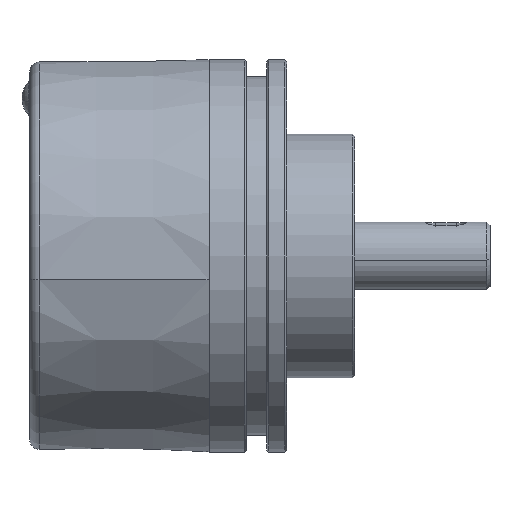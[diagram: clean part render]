
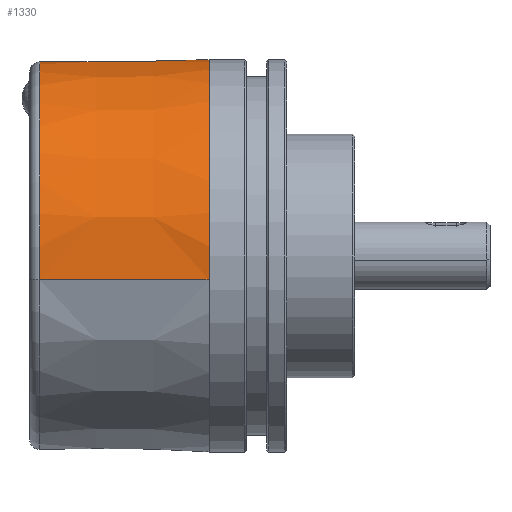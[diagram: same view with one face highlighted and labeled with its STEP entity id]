
A CAD part, front view. The second image highlights one B-rep face of the part: STEP entity #1330.
In plain terms, the highlighted conical face has half-angle 0.75 degrees and reference radius 29 mm.
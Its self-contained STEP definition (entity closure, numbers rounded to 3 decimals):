
#1330 = ADVANCED_FACE ( 'NONE', ( #3565 ), #3521, .T. ) ;
#1331 = EDGE_LOOP ( 'NONE', ( #1332, #1346, #1349, #1352 ) ) ;
#1332 = ORIENTED_EDGE ( 'NONE', *, *, #1333, .T. ) ;
#1333 = EDGE_CURVE ( 'NONE', #1334, #1335, #3510, .T. ) ;
#1334 = VERTEX_POINT ( 'NONE', #3505 ) ;
#1335 = VERTEX_POINT ( 'NONE', #3504 ) ;
#1346 = ORIENTED_EDGE ( 'NONE', *, *, #1347, .T. ) ;
#1347 = EDGE_CURVE ( 'NONE', #1335, #1348, #3746, .T. ) ;
#1348 = VERTEX_POINT ( 'NONE', #3690 ) ;
#1349 = ORIENTED_EDGE ( 'NONE', *, *, #1350, .T. ) ;
#1350 = EDGE_CURVE ( 'NONE', #1348, #1351, #3861, .T. ) ;
#1351 = VERTEX_POINT ( 'NONE', #3687 ) ;
#1352 = ORIENTED_EDGE ( 'NONE', *, *, #1353, .T. ) ;
#1353 = EDGE_CURVE ( 'NONE', #1351, #1334, #3741, .T. ) ;
#3504 = CARTESIAN_POINT ( 'NONE',  ( -17.52, -28.459, -3.494 ) ) ;
#3505 = CARTESIAN_POINT ( 'NONE',  ( -17.52, 21.923, 18.479 ) ) ;
#3506 = DIRECTION ( 'NONE',  ( 0., 0.993, 0.122 ) ) ;
#3507 = DIRECTION ( 'NONE',  ( 1., 0., 0. ) ) ;
#3508 = CARTESIAN_POINT ( 'NONE',  ( -17.52, 0., 0. ) ) ;
#3509 = AXIS2_PLACEMENT_3D ( 'NONE', #3508, #3507, #3506 ) ;
#3510 = CIRCLE ( 'NONE', #3509, 28.672 ) ;
#3511 = DIRECTION ( 'NONE',  ( 0., -0.993, -0.122 ) ) ;
#3518 = DIRECTION ( 'NONE',  ( 1., 0., 0. ) ) ;
#3519 = CARTESIAN_POINT ( 'NONE',  ( 7.5, 0., 0. ) ) ;
#3520 = AXIS2_PLACEMENT_3D ( 'NONE', #3519, #3518, #3511 ) ;
#3521 = CONICAL_SURFACE ( 'NONE', #3520, 29., 0.013 ) ;
#3565 = FACE_OUTER_BOUND ( 'NONE', #1331, .T. ) ;
#3687 = CARTESIAN_POINT ( 'NONE',  ( 7.5, 22.36, 18.467 ) ) ;
#3688 = DIRECTION ( 'NONE',  ( 0., 0.993, 0.122 ) ) ;
#3689 = DIRECTION ( 'NONE',  ( -1., 0., 0. ) ) ;
#3690 = CARTESIAN_POINT ( 'NONE',  ( 7.5, -28.784, -3.534 ) ) ;
#3691 = DIRECTION ( 'NONE',  ( 1., -0.013, -0.002 ) ) ;
#3692 = CARTESIAN_POINT ( 'NONE',  ( 6.5, 22.343, 18.468 ) ) ;
#3693 = CARTESIAN_POINT ( 'NONE',  ( 7.5, 22.36, 18.467 ) ) ;
#3741 = B_SPLINE_CURVE_WITH_KNOTS ( 'NONE', 3,
 ( #3693, #3692, #3771, #3770, #3769, #3768, #3767, #3766, #3765, #3858 ),
 .UNSPECIFIED., .F., .F.,
 ( 4, 3, 3, 4 ),
 ( 0., 0.003, 0.015, 0.025 ),
 .UNSPECIFIED. ) ;
#3744 = VECTOR ( 'NONE', #3691, 1000. ) ;
#3745 = CARTESIAN_POINT ( 'NONE',  ( 7.5, -28.784, -3.534 ) ) ;
#3746 = LINE ( 'NONE', #3745, #3744 ) ;
#3765 = CARTESIAN_POINT ( 'NONE',  ( -14.179, 21.982, 18.477 ) ) ;
#3766 = CARTESIAN_POINT ( 'NONE',  ( -10.838, 22.04, 18.476 ) ) ;
#3767 = CARTESIAN_POINT ( 'NONE',  ( -7.498, 22.099, 18.474 ) ) ;
#3768 = CARTESIAN_POINT ( 'NONE',  ( -3.498, 22.169, 18.472 ) ) ;
#3769 = CARTESIAN_POINT ( 'NONE',  ( 0.501, 22.238, 18.47 ) ) ;
#3770 = CARTESIAN_POINT ( 'NONE',  ( 4.5, 22.308, 18.469 ) ) ;
#3771 = CARTESIAN_POINT ( 'NONE',  ( 5.5, 22.325, 18.468 ) ) ;
#3858 = CARTESIAN_POINT ( 'NONE',  ( -17.52, 21.923, 18.479 ) ) ;
#3859 = CARTESIAN_POINT ( 'NONE',  ( 7.5, 0., 0. ) ) ;
#3860 = AXIS2_PLACEMENT_3D ( 'NONE', #3859, #3689, #3688 ) ;
#3861 = CIRCLE ( 'NONE', #3860, 29. ) ;
